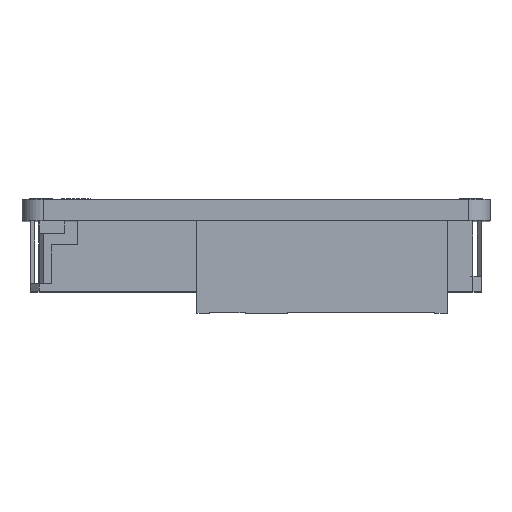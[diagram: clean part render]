
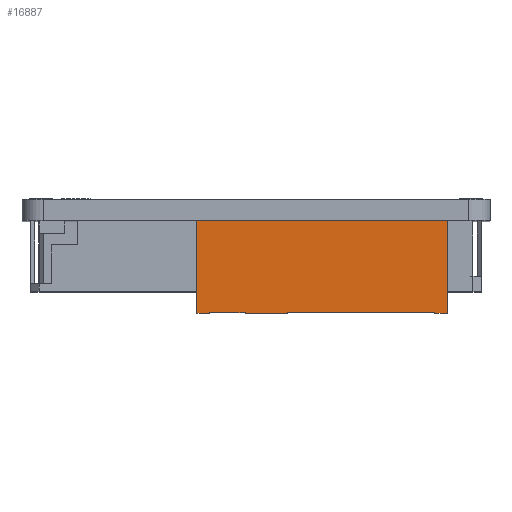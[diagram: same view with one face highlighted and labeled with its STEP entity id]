
A CAD part, top view. The second image highlights one B-rep face of the part: STEP entity #16887.
In plain terms, the highlighted planar face has unit normal (0, 0, 1).
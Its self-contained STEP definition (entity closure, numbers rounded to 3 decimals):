
#130 = LINE ( 'NONE', #11256, #4908 ) ;
#433 = ORIENTED_EDGE ( 'NONE', *, *, #5079, .F. ) ;
#539 = CARTESIAN_POINT ( 'NONE',  ( -0.981, -2.18, 7.344 ) ) ;
#608 = DIRECTION ( 'NONE',  ( 0., 1., 0. ) ) ;
#1064 = LINE ( 'NONE', #9275, #8580 ) ;
#1101 = LINE ( 'NONE', #10770, #12285 ) ;
#1159 = VERTEX_POINT ( 'NONE', #4788 ) ;
#1410 = LINE ( 'NONE', #13687, #4607 ) ;
#1419 = CARTESIAN_POINT ( 'NONE',  ( 4.457, -2.17, 7.344 ) ) ;
#1423 = CARTESIAN_POINT ( 'NONE',  ( -1.131, 0., 7.344 ) ) ;
#1821 = LINE ( 'NONE', #539, #5392 ) ;
#2058 = CARTESIAN_POINT ( 'NONE',  ( 4.457, -2.17, 7.344 ) ) ;
#2234 = VECTOR ( 'NONE', #8004, 1000. ) ;
#2631 = CARTESIAN_POINT ( 'NONE',  ( 1., -2.17, 7.344 ) ) ;
#2970 = ORIENTED_EDGE ( 'NONE', *, *, #14861, .T. ) ;
#3135 = CARTESIAN_POINT ( 'NONE',  ( 1., -2.18, 7.344 ) ) ;
#3531 = VERTEX_POINT ( 'NONE', #12848 ) ;
#3629 = CARTESIAN_POINT ( 'NONE',  ( 0., -2.17, 7.344 ) ) ;
#3725 = ORIENTED_EDGE ( 'NONE', *, *, #14773, .T. ) ;
#4076 = VERTEX_POINT ( 'NONE', #13394 ) ;
#4100 = ORIENTED_EDGE ( 'NONE', *, *, #8193, .F. ) ;
#4355 = LINE ( 'NONE', #16795, #15435 ) ;
#4382 = DIRECTION ( 'NONE',  ( -1., 0., 0. ) ) ;
#4439 = VECTOR ( 'NONE', #10683, 1000. ) ;
#4467 = VECTOR ( 'NONE', #608, 1000. ) ;
#4490 = CARTESIAN_POINT ( 'NONE',  ( 4.757, 0., 7.344 ) ) ;
#4523 = VERTEX_POINT ( 'NONE', #2058 ) ;
#4607 = VECTOR ( 'NONE', #16596, 1000. ) ;
#4614 = DIRECTION ( 'NONE',  ( 1., 0., 0. ) ) ;
#4788 = CARTESIAN_POINT ( 'NONE',  ( -0.831, -2.17, 7.344 ) ) ;
#4863 = VERTEX_POINT ( 'NONE', #17276 ) ;
#4908 = VECTOR ( 'NONE', #4614, 1000. ) ;
#4993 = DIRECTION ( 'NONE',  ( 0., -1., 0. ) ) ;
#5079 = EDGE_CURVE ( 'NONE', #7337, #10306, #4355, .T. ) ;
#5335 = EDGE_CURVE ( 'NONE', #9118, #10306, #1101, .T. ) ;
#5370 = EDGE_CURVE ( 'NONE', #9118, #4863, #7767, .T. ) ;
#5392 = VECTOR ( 'NONE', #4382, 1000. ) ;
#5466 = DIRECTION ( 'NONE',  ( 0., -1., 0. ) ) ;
#6148 = EDGE_CURVE ( 'NONE', #10468, #8897, #6451, .T. ) ;
#6180 = ORIENTED_EDGE ( 'NONE', *, *, #5370, .F. ) ;
#6451 = LINE ( 'NONE', #3629, #4467 ) ;
#6613 = VERTEX_POINT ( 'NONE', #3135 ) ;
#6891 = LINE ( 'NONE', #1419, #15830 ) ;
#7337 = VERTEX_POINT ( 'NONE', #17960 ) ;
#7767 = LINE ( 'NONE', #13287, #4439 ) ;
#7938 = ORIENTED_EDGE ( 'NONE', *, *, #10647, .T. ) ;
#8004 = DIRECTION ( 'NONE',  ( 0., -1., 0. ) ) ;
#8193 = EDGE_CURVE ( 'NONE', #1159, #4076, #16075, .T. ) ;
#8211 = CARTESIAN_POINT ( 'NONE',  ( 0., -2.18, 7.344 ) ) ;
#8246 = VECTOR ( 'NONE', #4993, 1000. ) ;
#8580 = VECTOR ( 'NONE', #9445, 1000. ) ;
#8897 = VERTEX_POINT ( 'NONE', #17640 ) ;
#9002 = EDGE_CURVE ( 'NONE', #3531, #6613, #17912, .T. ) ;
#9118 = VERTEX_POINT ( 'NONE', #15798 ) ;
#9167 = ORIENTED_EDGE ( 'NONE', *, *, #16154, .F. ) ;
#9168 = EDGE_CURVE ( 'NONE', #8897, #1159, #1064, .T. ) ;
#9275 = CARTESIAN_POINT ( 'NONE',  ( 1.813, -2.17, 7.344 ) ) ;
#9445 = DIRECTION ( 'NONE',  ( -1., 0., 0. ) ) ;
#9543 = LINE ( 'NONE', #1423, #2234 ) ;
#9722 = ORIENTED_EDGE ( 'NONE', *, *, #6148, .F. ) ;
#9907 = DIRECTION ( 'NONE',  ( 1., 0., 0. ) ) ;
#10306 = VERTEX_POINT ( 'NONE', #4490 ) ;
#10468 = VERTEX_POINT ( 'NONE', #8211 ) ;
#10647 = EDGE_CURVE ( 'NONE', #7337, #14472, #9543, .T. ) ;
#10666 = PLANE ( 'NONE',  #14670 ) ;
#10683 = DIRECTION ( 'NONE',  ( -1., 0., 0. ) ) ;
#10770 = CARTESIAN_POINT ( 'NONE',  ( 4.757, 0., 7.344 ) ) ;
#11256 = CARTESIAN_POINT ( 'NONE',  ( 4.757, -2.17, 7.344 ) ) ;
#11755 = CARTESIAN_POINT ( 'NONE',  ( 4.757, 0., 7.344 ) ) ;
#12285 = VECTOR ( 'NONE', #15003, 1000. ) ;
#12592 = ORIENTED_EDGE ( 'NONE', *, *, #5335, .T. ) ;
#12848 = CARTESIAN_POINT ( 'NONE',  ( 1., -2.17, 7.344 ) ) ;
#13287 = CARTESIAN_POINT ( 'NONE',  ( 4.607, -2.18, 7.344 ) ) ;
#13394 = CARTESIAN_POINT ( 'NONE',  ( -0.831, -2.18, 7.344 ) ) ;
#13687 = CARTESIAN_POINT ( 'NONE',  ( 4.757, -2.18, 7.344 ) ) ;
#14449 = FACE_OUTER_BOUND ( 'NONE', #16550, .T. ) ;
#14472 = VERTEX_POINT ( 'NONE', #16883 ) ;
#14670 = AXIS2_PLACEMENT_3D ( 'NONE', #11755, #15913, #14727 ) ;
#14727 = DIRECTION ( 'NONE',  ( 1., 0., 0. ) ) ;
#14773 = EDGE_CURVE ( 'NONE', #10468, #6613, #1410, .T. ) ;
#14861 = EDGE_CURVE ( 'NONE', #3531, #4523, #130, .T. ) ;
#14879 = CARTESIAN_POINT ( 'NONE',  ( -0.831, -2.17, 7.344 ) ) ;
#15003 = DIRECTION ( 'NONE',  ( 0., 1., 0. ) ) ;
#15435 = VECTOR ( 'NONE', #9907, 1000. ) ;
#15499 = ORIENTED_EDGE ( 'NONE', *, *, #16790, .F. ) ;
#15724 = ORIENTED_EDGE ( 'NONE', *, *, #9002, .F. ) ;
#15798 = CARTESIAN_POINT ( 'NONE',  ( 4.757, -2.18, 7.344 ) ) ;
#15810 = VECTOR ( 'NONE', #5466, 1000. ) ;
#15830 = VECTOR ( 'NONE', #16605, 1000. ) ;
#15913 = DIRECTION ( 'NONE',  ( 0., 0., 1. ) ) ;
#16070 = ORIENTED_EDGE ( 'NONE', *, *, #9168, .F. ) ;
#16075 = LINE ( 'NONE', #14879, #8246 ) ;
#16154 = EDGE_CURVE ( 'NONE', #4863, #4523, #6891, .T. ) ;
#16550 = EDGE_LOOP ( 'NONE', ( #6180, #12592, #433, #7938, #15499, #4100, #16070, #9722, #3725, #15724, #2970, #9167 ) ) ;
#16596 = DIRECTION ( 'NONE',  ( 1., 0., 0. ) ) ;
#16605 = DIRECTION ( 'NONE',  ( 0., 1., 0. ) ) ;
#16790 = EDGE_CURVE ( 'NONE', #4076, #14472, #1821, .T. ) ;
#16795 = CARTESIAN_POINT ( 'NONE',  ( 0.257, 0., 7.344 ) ) ;
#16883 = CARTESIAN_POINT ( 'NONE',  ( -1.131, -2.18, 7.344 ) ) ;
#16887 = ADVANCED_FACE ( 'NONE', ( #14449 ), #10666, .T. ) ;
#17276 = CARTESIAN_POINT ( 'NONE',  ( 4.457, -2.18, 7.344 ) ) ;
#17640 = CARTESIAN_POINT ( 'NONE',  ( 0., -2.17, 7.344 ) ) ;
#17912 = LINE ( 'NONE', #2631, #15810 ) ;
#17960 = CARTESIAN_POINT ( 'NONE',  ( -1.131, 0., 7.344 ) ) ;
